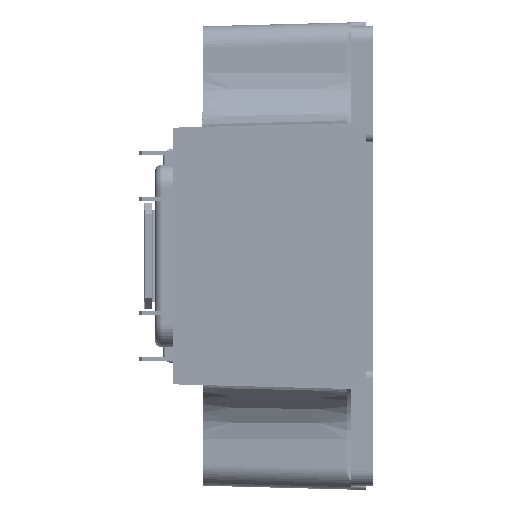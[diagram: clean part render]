
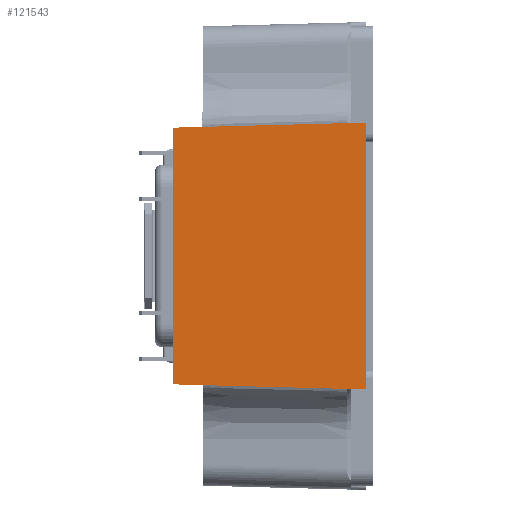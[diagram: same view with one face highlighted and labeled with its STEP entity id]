
A CAD part, left-side view. The second image highlights one B-rep face of the part: STEP entity #121543.
In plain terms, the highlighted planar face has unit normal (-1, 0.026, 0).
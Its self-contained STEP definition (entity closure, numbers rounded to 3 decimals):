
#13999 = PLANE ( 'NONE',  #157812 ) ;
#24260 = ORIENTED_EDGE ( 'NONE', *, *, #220793, .F. ) ;
#27453 = LINE ( 'NONE', #79366, #125301 ) ;
#40996 = CARTESIAN_POINT ( 'NONE',  ( -53.2, 0., 0. ) ) ;
#50628 = VECTOR ( 'NONE', #152558, 1000. ) ;
#67246 = EDGE_CURVE ( 'NONE', #107533, #263747, #239523, .T. ) ;
#72766 = EDGE_CURVE ( 'NONE', #107533, #99826, #114662, .T. ) ;
#74551 = DIRECTION ( 'NONE',  ( 0.026, 0.999, 0.026 ) ) ;
#78588 = ORIENTED_EDGE ( 'NONE', *, *, #72766, .F. ) ;
#79366 = CARTESIAN_POINT ( 'NONE',  ( -52.537, 25.3, 16.837 ) ) ;
#82278 = DIRECTION ( 'NONE',  ( -0.026, -1., 0. ) ) ;
#84161 = ORIENTED_EDGE ( 'NONE', *, *, #67246, .T. ) ;
#88948 = CARTESIAN_POINT ( 'NONE',  ( -53.2, 0., -17.5 ) ) ;
#99826 = VERTEX_POINT ( 'NONE', #152101 ) ;
#107533 = VERTEX_POINT ( 'NONE', #88948 ) ;
#113292 = CARTESIAN_POINT ( 'NONE',  ( -53.2, 0., 17.5 ) ) ;
#114662 = LINE ( 'NONE', #208675, #149869 ) ;
#121543 = ADVANCED_FACE ( 'NONE', ( #174860 ), #13999, .T. ) ;
#125301 = VECTOR ( 'NONE', #136948, 1000. ) ;
#136948 = DIRECTION ( 'NONE',  ( -0.026, -0.999, 0.026 ) ) ;
#139464 = EDGE_CURVE ( 'NONE', #99826, #216967, #189307, .T. ) ;
#149869 = VECTOR ( 'NONE', #74551, 1000. ) ;
#152101 = CARTESIAN_POINT ( 'NONE',  ( -52.537, 25.3, -16.837 ) ) ;
#152558 = DIRECTION ( 'NONE',  ( 0., 0., 1. ) ) ;
#157812 = AXIS2_PLACEMENT_3D ( 'NONE', #215388, #217308, #82278 ) ;
#174860 = FACE_OUTER_BOUND ( 'NONE', #177562, .T. ) ;
#177562 = EDGE_LOOP ( 'NONE', ( #194876, #78588, #84161, #24260 ) ) ;
#189307 = LINE ( 'NONE', #286459, #238385 ) ;
#194876 = ORIENTED_EDGE ( 'NONE', *, *, #139464, .F. ) ;
#198423 = DIRECTION ( 'NONE',  ( 0., 0., 1. ) ) ;
#208675 = CARTESIAN_POINT ( 'NONE',  ( -53.2, 0., -17.5 ) ) ;
#215388 = CARTESIAN_POINT ( 'NONE',  ( -52.537, 25.3, -17.71 ) ) ;
#216967 = VERTEX_POINT ( 'NONE', #267085 ) ;
#217308 = DIRECTION ( 'NONE',  ( -1., 0.026, 0. ) ) ;
#220793 = EDGE_CURVE ( 'NONE', #216967, #263747, #27453, .T. ) ;
#238385 = VECTOR ( 'NONE', #198423, 1000. ) ;
#239523 = LINE ( 'NONE', #40996, #50628 ) ;
#263747 = VERTEX_POINT ( 'NONE', #113292 ) ;
#267085 = CARTESIAN_POINT ( 'NONE',  ( -52.537, 25.3, 16.837 ) ) ;
#286459 = CARTESIAN_POINT ( 'NONE',  ( -52.537, 25.3, 0. ) ) ;
